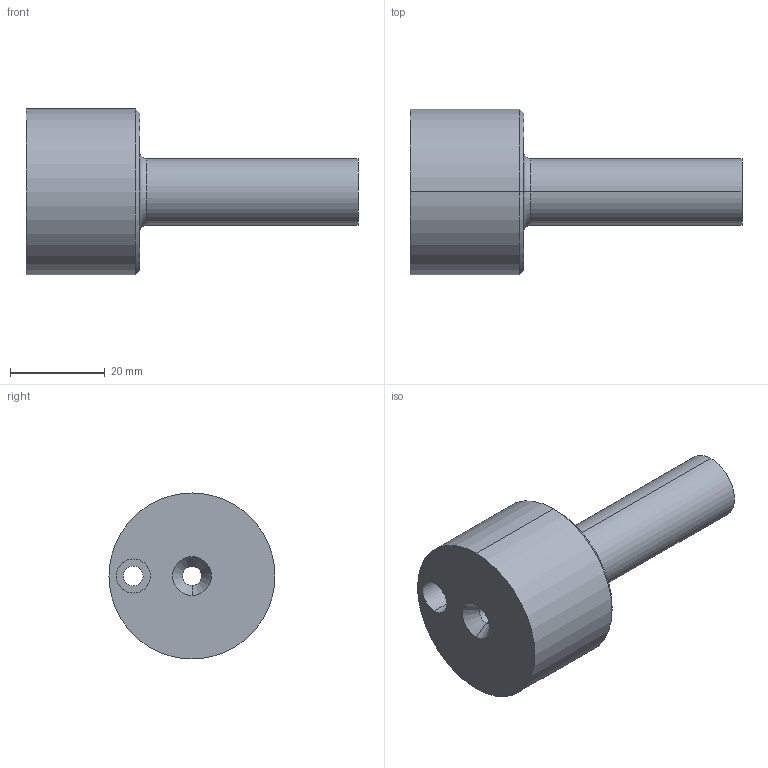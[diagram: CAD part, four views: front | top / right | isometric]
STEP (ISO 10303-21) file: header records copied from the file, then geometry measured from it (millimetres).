
FILE_DESCRIPTION (( 'STEP AP214' ), '1' );
FILE_NAME ('B1 24x70 1°.STEP', '2019-05-22T10:46:44', ( 'August' ), ( '' ), 'SwSTEP 2.0', 'SolidWorks 2018', '' );
FILE_SCHEMA (( 'AUTOMOTIVE_DESIGN' ));
Length unit declared in the file: millimetre
Products named in the file (1): B1 24x70 1ｰ
Bounding box: 70 x 35 x 35 mm (x, y, z)
Volume: 28152 mm3; surface area: 7903.5 mm2
Topology: 1 solids, 1 shells, 20 faces, 42 edges, 26 vertices
Faces by surface type: cylinder 8, cone 6, plane 4, torus 2
Entity records: 588 total; most frequent: DIRECTION 112, CARTESIAN_POINT 89, ORIENTED_EDGE 84, AXIS2_PLACEMENT_3D 49, EDGE_CURVE 42, CIRCLE 28, EDGE_LOOP 26, VERTEX_POINT 26
